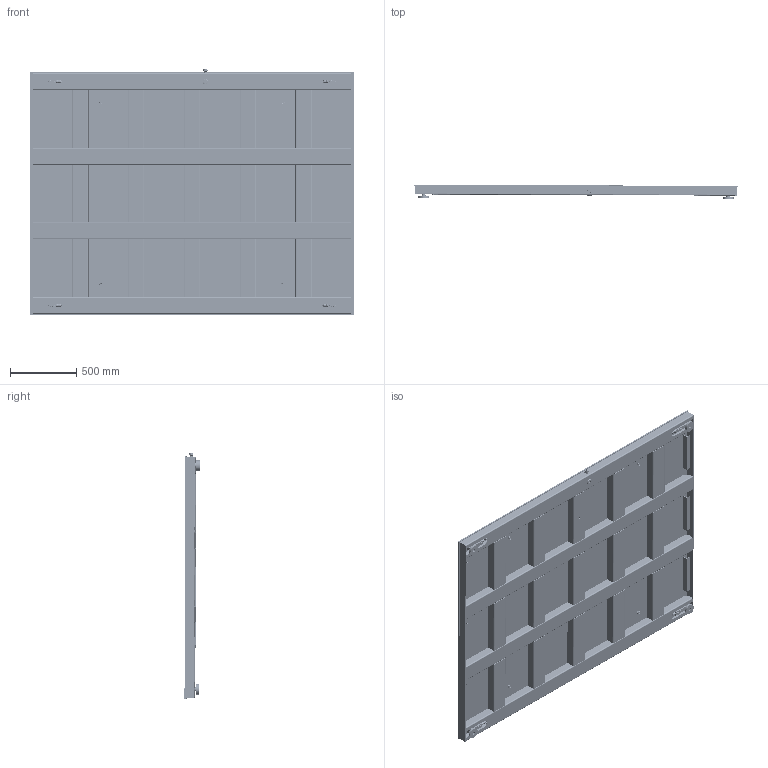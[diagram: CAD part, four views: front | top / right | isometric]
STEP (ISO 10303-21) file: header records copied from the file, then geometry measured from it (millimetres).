
FILE_DESCRIPTION (( 'STEP AP214' ), '1' );
FILE_NAME ('HIFS-7296 Series.STEP', '2019-10-17T15:59:48', ( '' ), ( '' ), 'SwSTEP 2.0', 'SolidWorks 2017', '' );
FILE_SCHEMA (( 'AUTOMOTIVE_DESIGN' ));
Length unit declared in the file: inch
Products named in the file (61): HP-00118; HIFS-7296 Weight Bridge Assembly; HI SBHF14-5K-Cell; Gland; 0529-0024-01-0; Phoenix_1751167; 5504-0012 foot insert; 100-96543_CS; 2817-0188; Mini Cable; Socket Countersunk Head Cap Screw - 1_4 - 20_0.75 CS; Cable Adapter Nut; 6007-0097-0; Hex Bolt - 1_2 - 20_2.25 SS; 100-99097; 0535-0575-XX-0 PWA; 0534-0575-01-0 PWB; 2818-0128-0_91287A010; 0508-0918-001_ENCLOSURE ASSY; smkds_1-9-3.5; L.125 x 1.5 x 1.5 x 12_Default_As Machined_; 100-80340_CS; 5504-0012 Rubber; Phoenix_1751141; PL.375 x 2.5 x 71.5; PEM BSO4-632-10; 91800A236_91800A236; Pin 4-6362E-1 Rubber Foot; ORING; 5504-0012 threaded insert; HP-00120; blind standoff_pmm_PEM BSO4-M3-6; Cable Adapter; HP-00119; HI 6011 ASSEMBLY; Hex Nut - 5_8 - 11_CS Heavy; Adapter Nut; 100-82172_CS 3_8; 0508-0918-001_ENCLOSURE; 0530-0852-01-0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
Assembly tree (148 placements, depth 5):
  HIFS-7296 Series
    HIFS-7296 Weight Bridge Assembly
      100-99097
      100-80340_CS  x2
      100-82172_CS 3_8
      Socket Countersunk Head Cap Screw - 1_4 - 20_0.75 CS  x2
      Hex Nut - 5_8 - 11_CS Heavy  x4
      HP-00117
      HP-00118  x2
      HP-00119
      HP-00120_With Drain Hole
      HP-00120  x14
      100-96543_CS  x4
      PL.375 x 2.5 x 71.5  x2
      L.125 x 1.5 x 1.5 x 12_Default_As Machined_  x6
    0530-0825-01-0  x3
    800-000166
    900-100111
    900-100115
    900-100128  x8
    HP-00003  x4
    HI 6011 ASSEMBLY
      0508-0918-01_ENCLOSURE ASSY
        0508-0918-001_ENCLOSURE ASSY
          0508-0918-001_ENCLOSURE
          blind standoff_pmm_PEM BSO4-M3-6  x8
          PEM BSO4-632-10  x4
        0508-0918-003_COVER_Default<As Machined>
        0508-0918-002_PLATE
      0524-0038-01-0
      0535-0575-XX-0 PWA
        0534-0575-01-0 PWB
        Phoenix_1751141
          smkds_1-7-3.5
        smkds_1-7-3.5  x3
        Phoenix_1751167
          smkds_1-9-3.5
      2817-0188  x4
        flat washer type a selected narrow_ai_Selected Narrow FW 0.156
        pan cross head_ai_CR-PHMS 0.138-32x0.25x0.25-C
      0529-0024-01-0  x5
      6007-0097-0  x5
      2814-0095-0  x5
      2818-0128-0_91287A010  x8
      0530-0852-01-0
    HI SBHF14-5K  x4
      Mini Cable Adapter
        Mini Cable
        Gland
        Cable Adapter Nut
          Adapter Nut
        Cable Adapter
      HI SBHF14-5K-Cell
    Hex Bolt - 1_2 - 20_2.25 SS  x8
    5504-0012  x4
      Pin 4-6362E-1 Rubber Foot
      93625A150_93625A150
      91800A236_91800A236
      ORING
      5504-0012 foot insert
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Bounding box: 2438.43 x 114.69 x 1850.99 mm (x, y, z)
Volume: 65290160.6 mm3; surface area: 18434076.6 mm2
Topology: 682 solids, 686 shells, 20483 faces, 51864 edges, 33573 vertices
Faces by surface type: plane 8919, bspline 6621, cylinder 2874, cone 1897, torus 156, sphere 16
Full cylindrical faces by diameter (mm): 10 x4
Entity records: 701083 total; most frequent: CARTESIAN_POINT 222154, ORIENTED_EDGE 74528, DIRECTION 43717, EDGE_CURVE 37264, VERTEX_POINT 24569, LINE 22765, VECTOR 22765, EDGE_LOOP 15261
